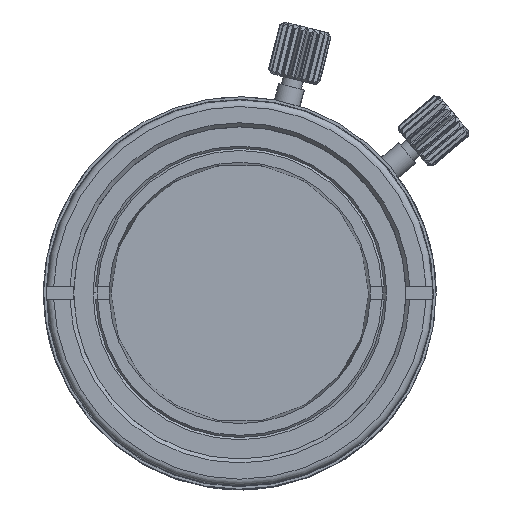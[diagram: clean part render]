
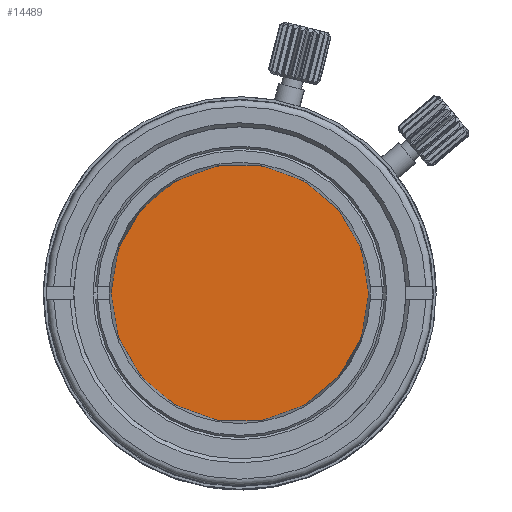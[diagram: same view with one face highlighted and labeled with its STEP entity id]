
A CAD part, top view. The second image highlights one B-rep face of the part: STEP entity #14489.
In plain terms, the highlighted planar face has unit normal (0, 0, 1).
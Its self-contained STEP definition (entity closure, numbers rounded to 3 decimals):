
#5630 = VERTEX_POINT ( 'NONE', #17378 ) ;
#6179 = ORIENTED_EDGE ( 'NONE', *, *, #6844, .F. ) ;
#6844 = EDGE_CURVE ( 'NONE', #29204, #5630, #35121, .T. ) ;
#9982 = CARTESIAN_POINT ( 'NONE',  ( 0., 0., 15.375 ) ) ;
#10543 = EDGE_LOOP ( 'NONE', ( #6179, #18940 ) ) ;
#11094 = CARTESIAN_POINT ( 'NONE',  ( 9.686, 0., 15.375 ) ) ;
#12003 = AXIS2_PLACEMENT_3D ( 'NONE', #33901, #13930, #37224 ) ;
#13341 = PLANE ( 'NONE',  #41184 ) ;
#13930 = DIRECTION ( 'NONE',  ( 0., 0., -1. ) ) ;
#14489 = ADVANCED_FACE ( 'NONE', ( #32865 ), #13341, .F. ) ;
#16694 = DIRECTION ( 'NONE',  ( 0., 0., -1. ) ) ;
#17378 = CARTESIAN_POINT ( 'NONE',  ( -9.686, 0., 15.375 ) ) ;
#18940 = ORIENTED_EDGE ( 'NONE', *, *, #24112, .F. ) ;
#19487 = DIRECTION ( 'NONE',  ( 0., 0., -1. ) ) ;
#24112 = EDGE_CURVE ( 'NONE', #5630, #29204, #26399, .T. ) ;
#26399 = CIRCLE ( 'NONE', #12003, 9.686 ) ;
#29204 = VERTEX_POINT ( 'NONE', #11094 ) ;
#31298 = AXIS2_PLACEMENT_3D ( 'NONE', #39385, #19487, #42775 ) ;
#32865 = FACE_OUTER_BOUND ( 'NONE', #10543, .T. ) ;
#33901 = CARTESIAN_POINT ( 'NONE',  ( 0., 0., 15.375 ) ) ;
#35121 = CIRCLE ( 'NONE', #31298, 9.686 ) ;
#37224 = DIRECTION ( 'NONE',  ( -1., 0., 0. ) ) ;
#39385 = CARTESIAN_POINT ( 'NONE',  ( 0., 0., 15.375 ) ) ;
#39990 = DIRECTION ( 'NONE',  ( -1., 0., 0. ) ) ;
#41184 = AXIS2_PLACEMENT_3D ( 'NONE', #9982, #16694, #39990 ) ;
#42775 = DIRECTION ( 'NONE',  ( -1., 0., 0. ) ) ;
